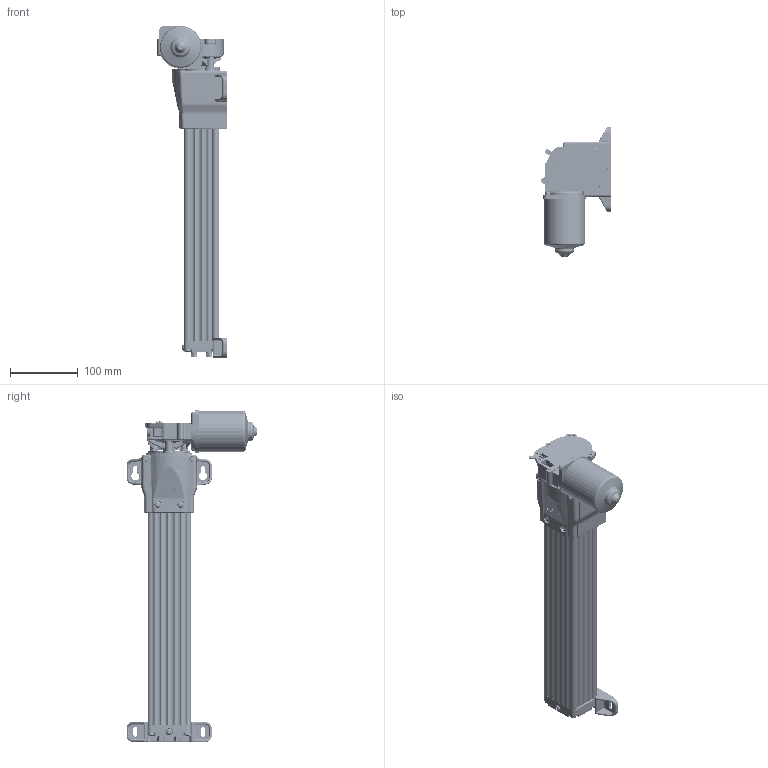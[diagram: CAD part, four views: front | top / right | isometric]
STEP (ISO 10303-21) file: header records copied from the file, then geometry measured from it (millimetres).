
FILE_DESCRIPTION (( 'STEP AP203' ), '1' );
FILE_NAME ('QXY12 Motor.STEP', '2014-01-22T19:02:19', ( '' ), ( '' ), 'SwSTEP 2.0', 'SolidWorks 2013', '' );
FILE_SCHEMA (( 'CONFIG_CONTROL_DESIGN' ));
Length unit declared in the file: millimetre
Products named in the file (1): QXY12 Motor
Bounding box: 102.7 x 193.55 x 490.97 mm (x, y, z)
Volume: 841108.4 mm3; surface area: 347564.8 mm2
Topology: 28 solids, 28 shells, 4939 faces, 11979 edges, 7174 vertices
Faces by surface type: cylinder 1559, plane 1104, torus 904, cone 683, bspline 616, sphere 73
Entity records: 164104 total; most frequent: CARTESIAN_POINT 51563, DIRECTION 24229, ORIENTED_EDGE 23768, EDGE_CURVE 11884, AXIS2_PLACEMENT_3D 9949, VERTEX_POINT 7170, CIRCLE 5625, EDGE_LOOP 5194
